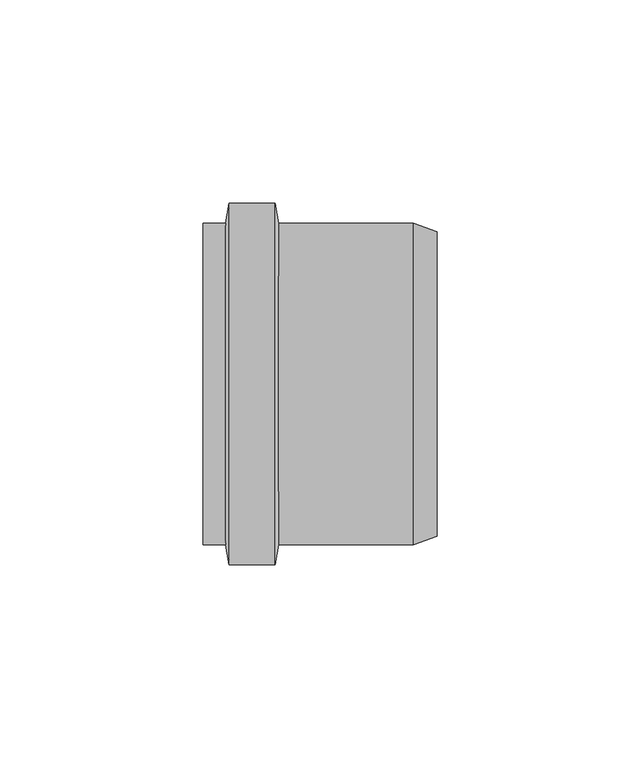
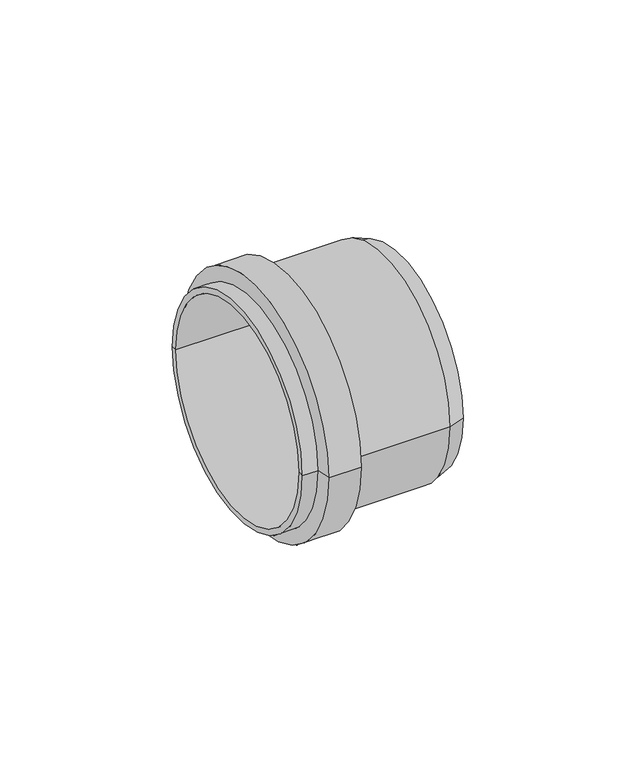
"""IFC4 building model written with IfcOpenShell, lengths in millimetres: pipe fitting geometry, PIF_Master 3+ pipesocket_Pipelife : PIF_Master 3 PP Silent pipesocket_Pipelife."""

from ifc_helpers import new_model, si_unit, frame, origin, place, context, project, spatial, polyline, circle_curve, source, transform, mapped, element, save
from ifc_brep_helpers import plane_surface, cylinder_surface, revolved_surface, advanced_brep


def pipe_fitting_66ab91ed(model_context):
    return source(origin(), model_context, "Body", "AdvancedBrep", [
        advanced_brep(
        [(0.0, -37.5, 0.0), (0.0, 37.5, 0.0), (-57.7, 37.5, 0.0), (-57.7, -37.5, 0.0), (-5.7697026, -39.6, 0.0), (-5.7697026, 39.6, 0.0), (-39.0, -39.6, 0.0), (-39.0, 39.6, 0.0), (-39.8728186, -44.55, 0.0), (-39.8728186, 44.55, 0.0), (-51.2271814, -44.55, 0.0), (-51.2271814, 44.55, 0.0), (-52.1, -39.6, 0.0), (-52.1, 39.6, 0.0), (-57.7, -39.6, 0.0), (-57.7, 39.6, 0.0)],
        [
            (0, 1, circle_curve(frame((0.0, 0.0, 0.0), z_axis=(1.0, 0.0, 0.0), x_axis=(0.0, 1.0, 0.0)), 37.5)),
            (1, 2),
            (2, 3, circle_curve(frame((-57.7, 0.0, 0.0), z_axis=(-1.0, 0.0, 0.0), x_axis=(0.0, 1.0, 0.0)), 37.5)),
            (3, 0),
            (1, 0, circle_curve(frame((0.0, 0.0, 0.0), z_axis=(1.0, 0.0, 0.0), x_axis=(0.0, 1.0, 0.0)), 37.5)),
            (3, 2, circle_curve(frame((-57.7, 0.0, 0.0), z_axis=(-1.0, 0.0, 0.0), x_axis=(0.0, 1.0, 0.0)), 37.5)),
            (4, 5, circle_curve(frame((-5.7697026, 0.0, 0.0), z_axis=(1.0, 0.0, 0.0), x_axis=(0.0, 1.0, 0.0)), 39.6)),
            (5, 1),
            (0, 4),
            (5, 4, circle_curve(frame((-5.7697026, 0.0, 0.0), z_axis=(1.0, 0.0, 0.0), x_axis=(0.0, 1.0, 0.0)), 39.6)),
            (6, 7, circle_curve(frame((-39.0, 0.0, 0.0), z_axis=(1.0, 0.0, 0.0), x_axis=(0.0, 1.0, 0.0)), 39.6)),
            (7, 5),
            (4, 6),
            (7, 6, circle_curve(frame((-39.0, 0.0, 0.0), z_axis=(1.0, 0.0, 0.0), x_axis=(0.0, 1.0, 0.0)), 39.6)),
            (8, 9, circle_curve(frame((-39.8728186, 0.0, 0.0), z_axis=(1.0, 0.0, 0.0), x_axis=(0.0, 1.0, 0.0)), 44.55)),
            (9, 7),
            (6, 8),
            (9, 8, circle_curve(frame((-39.8728186, 0.0, 0.0), z_axis=(1.0, 0.0, 0.0), x_axis=(0.0, 1.0, 0.0)), 44.55)),
            (10, 11, circle_curve(frame((-51.2271814, 0.0, 0.0), z_axis=(1.0, 0.0, 0.0), x_axis=(0.0, 1.0, 0.0)), 44.55)),
            (11, 9),
            (8, 10),
            (11, 10, circle_curve(frame((-51.2271814, 0.0, 0.0), z_axis=(1.0, 0.0, 0.0), x_axis=(0.0, 1.0, 0.0)), 44.55)),
            (12, 13, circle_curve(frame((-52.1, 0.0, 0.0), z_axis=(1.0, 0.0, 0.0), x_axis=(0.0, 1.0, 0.0)), 39.6)),
            (13, 11),
            (10, 12),
            (13, 12, circle_curve(frame((-52.1, 0.0, 0.0), z_axis=(1.0, 0.0, 0.0), x_axis=(0.0, 1.0, 0.0)), 39.6)),
            (14, 15, circle_curve(frame((-57.7, 0.0, 0.0), z_axis=(1.0, 0.0, 0.0), x_axis=(0.0, 1.0, 0.0)), 39.6)),
            (15, 13),
            (12, 14),
            (15, 14, circle_curve(frame((-57.7, 0.0, 0.0), z_axis=(1.0, 0.0, 0.0), x_axis=(0.0, 1.0, 0.0)), 39.6)),
            (2, 15),
            (14, 3),
        ],
        [
            revolved_surface(polyline([(-57.7, 37.5, 0.0), (0.0, 37.5, 0.0)]), (-67.7, 0.0, 0.0), (-1.0, 0.0, 0.0)),
            revolved_surface(polyline([(0.0, 37.5, 0.0), (-5.7697026, 39.6, 0.0)]), (-67.7, 0.0, 0.0), (-1.0, 0.0, 0.0)),
            cylinder_surface(frame((-67.7, 0.0, 0.0), z_axis=(-1.0, 0.0, 0.0), x_axis=(0.0, 1.0, 0.0)), 39.6),
            revolved_surface(polyline([(-39.0, 39.6, 0.0), (-39.8728186, 44.55, 0.0)]), (-67.7, 0.0, 0.0), (-1.0, 0.0, 0.0)),
            cylinder_surface(frame((-67.7, 0.0, 0.0), z_axis=(-1.0, 0.0, 0.0), x_axis=(0.0, 1.0, 0.0)), 44.55),
            revolved_surface(polyline([(-51.2271814, 44.55, 0.0), (-52.1, 39.6, 0.0)]), (-67.7, 0.0, 0.0), (-1.0, 0.0, 0.0)),
            plane_surface(frame((-57.7, 0.0, 0.0), z_axis=(-1.0, 0.0, 0.0), x_axis=(0.0, 1.0, 0.0))),
        ],
        [
            (0, [[1, 2, 3, 4]]),
            (0, [[5, -4, 6, -2]]),
            (1, [[7, 8, -1, 9]]),
            (1, [[10, -9, -5, -8]]),
            (2, [[11, 12, -7, 13]]),
            (2, [[14, -13, -10, -12]]),
            (3, [[15, 16, -11, 17]]),
            (3, [[18, -17, -14, -16]]),
            (4, [[19, 20, -15, 21]]),
            (4, [[22, -21, -18, -20]]),
            (5, [[23, 24, -19, 25]]),
            (5, [[26, -25, -22, -24]]),
            (2, [[27, 28, -23, 29]]),
            (2, [[30, -29, -26, -28]]),
            (6, [[-3, 31, -27, 32]]),
            (6, [[-6, -32, -30, -31]]),
        ],
    ),
    ])


if __name__ == "__main__":
    model = new_model("IFC4")
    model_context = context("Model", 3, world=origin())
    ifc_project = project(units=[si_unit("LENGTHUNIT", "METRE", prefix="MILLI")], contexts=[model_context])
    site = spatial("IfcSite", under=ifc_project)
    building = spatial("IfcBuilding", under=site)
    placement = place(None, origin())
    pipe_fitting_shape = pipe_fitting_66ab91ed(model_context)
    element("IfcPipeFitting", 1, ObjectType="PIF_Master 3+ pipesocket_Pipelife : PIF_Master 3 PP Silent pipesocket_Pipelife", at=placement, inside=building, context=model_context, shape_type="MappedRepresentation", body=[
        mapped(pipe_fitting_shape, transform((0.0, 0.0, 0.0), x_axis=(1.0, 0.0, 0.0), y_axis=(0.0, 1.0, 0.0), z_axis=(0.0, 0.0, 1.0))),
    ])
    save(model, "model.ifc")
